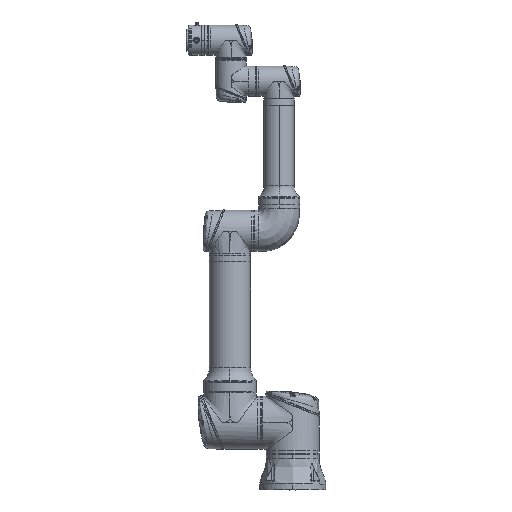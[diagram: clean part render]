
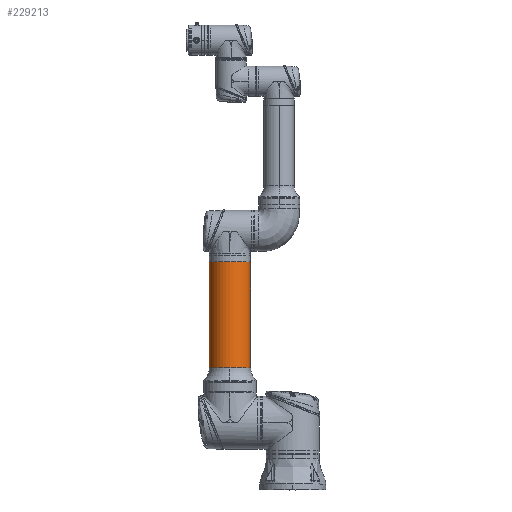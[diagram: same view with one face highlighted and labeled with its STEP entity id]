
A CAD part, top view. The second image highlights one B-rep face of the part: STEP entity #229213.
In plain terms, the highlighted cylindrical face has radius 59 mm (diameter 118 mm), a partial arc.
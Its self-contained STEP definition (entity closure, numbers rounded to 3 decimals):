
#1774 = DIRECTION ( 'NONE',  ( 0., 1., 0. ) ) ;
#4361 = CARTESIAN_POINT ( 'NONE',  ( 562.7, 0., 59. ) ) ;
#5215 = CARTESIAN_POINT ( 'NONE',  ( 562.7, 0., 0. ) ) ;
#5457 = AXIS2_PLACEMENT_3D ( 'NONE', #412181, #37874, #1774 ) ;
#7394 = AXIS2_PLACEMENT_3D ( 'NONE', #5215, #284849, #142068 ) ;
#7631 = DIRECTION ( 'NONE',  ( 0., 0., -1. ) ) ;
#32723 = CARTESIAN_POINT ( 'NONE',  ( 158.463, 0., 59. ) ) ;
#33065 = VERTEX_POINT ( 'NONE', #201820 ) ;
#34933 = CARTESIAN_POINT ( 'NONE',  ( 158.463, 0., -59. ) ) ;
#37874 = DIRECTION ( 'NONE',  ( 1., 0., 0. ) ) ;
#47424 = AXIS2_PLACEMENT_3D ( 'NONE', #284305, #384950, #7631 ) ;
#50333 = VERTEX_POINT ( 'NONE', #295836 ) ;
#54605 = EDGE_LOOP ( 'NONE', ( #370379, #397279, #388033, #153904, #222528 ) ) ;
#80243 = VERTEX_POINT ( 'NONE', #127624 ) ;
#81884 = AXIS2_PLACEMENT_3D ( 'NONE', #101239, #274157, #410792 ) ;
#101239 = CARTESIAN_POINT ( 'NONE',  ( 158.463, 0., 0. ) ) ;
#119076 = CARTESIAN_POINT ( 'NONE',  ( 562.7, 0., -59. ) ) ;
#127624 = CARTESIAN_POINT ( 'NONE',  ( 463.1, 0., -59. ) ) ;
#128610 = CIRCLE ( 'NONE', #81884, 59. ) ;
#142068 = DIRECTION ( 'NONE',  ( 0., 0., -1. ) ) ;
#151495 = LINE ( 'NONE', #4361, #232145 ) ;
#153904 = ORIENTED_EDGE ( 'NONE', *, *, #423400, .F. ) ;
#173225 = CYLINDRICAL_SURFACE ( 'NONE', #7394, 59. ) ;
#176160 = CIRCLE ( 'NONE', #5457, 59. ) ;
#189616 = FACE_OUTER_BOUND ( 'NONE', #54605, .T. ) ;
#194380 = CIRCLE ( 'NONE', #47424, 59. ) ;
#201820 = CARTESIAN_POINT ( 'NONE',  ( 158.463, 59., 0. ) ) ;
#221264 = DIRECTION ( 'NONE',  ( 1., 0., 0. ) ) ;
#222528 = ORIENTED_EDGE ( 'NONE', *, *, #370482, .F. ) ;
#223809 = VECTOR ( 'NONE', #221264, 1000. ) ;
#229213 = ADVANCED_FACE ( 'NONE', ( #189616 ), #173225, .T. ) ;
#232145 = VECTOR ( 'NONE', #378765, 1000. ) ;
#241435 = EDGE_CURVE ( 'NONE', #301482, #50333, #151495, .T. ) ;
#243985 = VERTEX_POINT ( 'NONE', #34933 ) ;
#251541 = EDGE_CURVE ( 'NONE', #243985, #33065, #176160, .T. ) ;
#272881 = EDGE_CURVE ( 'NONE', #33065, #301482, #128610, .T. ) ;
#274157 = DIRECTION ( 'NONE',  ( 1., 0., 0. ) ) ;
#284305 = CARTESIAN_POINT ( 'NONE',  ( 463.1, 0., 0. ) ) ;
#284849 = DIRECTION ( 'NONE',  ( 1., 0., 0. ) ) ;
#295836 = CARTESIAN_POINT ( 'NONE',  ( 463.1, 0., 59. ) ) ;
#301482 = VERTEX_POINT ( 'NONE', #32723 ) ;
#370379 = ORIENTED_EDGE ( 'NONE', *, *, #251541, .T. ) ;
#370482 = EDGE_CURVE ( 'NONE', #243985, #80243, #439031, .T. ) ;
#378765 = DIRECTION ( 'NONE',  ( 1., 0., 0. ) ) ;
#384950 = DIRECTION ( 'NONE',  ( 1., 0., 0. ) ) ;
#388033 = ORIENTED_EDGE ( 'NONE', *, *, #241435, .T. ) ;
#397279 = ORIENTED_EDGE ( 'NONE', *, *, #272881, .T. ) ;
#410792 = DIRECTION ( 'NONE',  ( 0., 1., 0. ) ) ;
#412181 = CARTESIAN_POINT ( 'NONE',  ( 158.463, 0., 0. ) ) ;
#423400 = EDGE_CURVE ( 'NONE', #80243, #50333, #194380, .T. ) ;
#439031 = LINE ( 'NONE', #119076, #223809 ) ;
